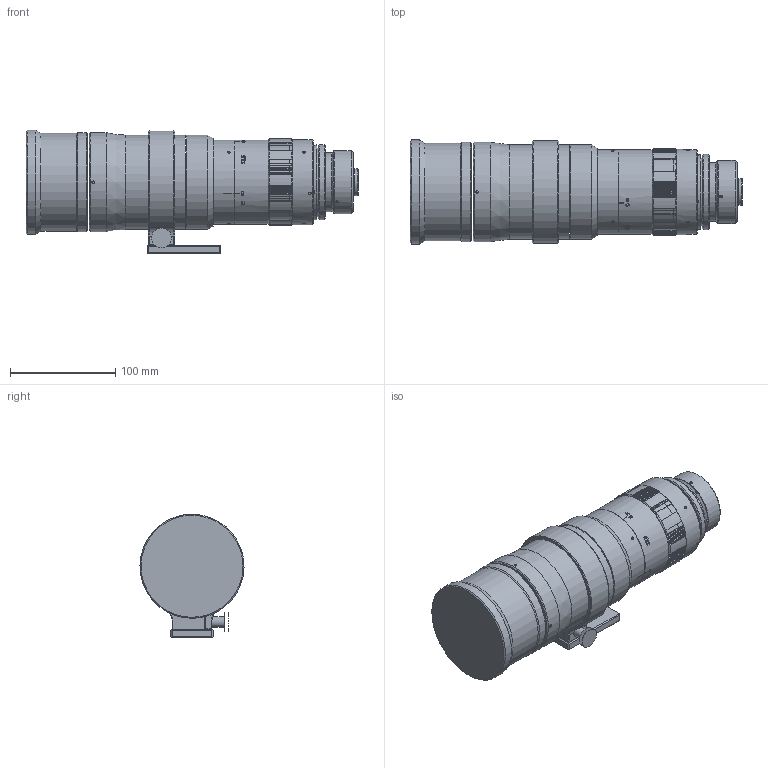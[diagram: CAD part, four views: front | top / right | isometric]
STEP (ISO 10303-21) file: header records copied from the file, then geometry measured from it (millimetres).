
FILE_DESCRIPTION((''),'2;1');
FILE_NAME('C:\Documents and Settings\tbosotti\Desktop\C0245_024.stp','2014-04-28T11:57:22',('tbosotti'),(''),'Autodesk Inventor 2010','Autodesk Inventor 2010','');
FILE_SCHEMA(('AUTOMOTIVE_DESIGN { 1 0 10303 214 1 1 1 1 }'));
Length unit declared in the file: millimetre
Products named in the file (2): C0245_024_000.iam (Livello di dettaglio sostituto1); C0245_024
Assembly tree (1 placements, depth 2):
  C0245_024_000.iam (Livello di dettaglio sostituto1)
    C0245_024
Bounding box: 315.81 x 98.99 x 117.49 mm (x, y, z)
Surface area: 205252.2 mm2 (no closed solid volume)
Topology: 0 solids, 30 shells, 277 faces, 1449 edges, 1164 vertices
Faces by surface type: plane 150, cone 48, cylinder 42, bspline 37
Full cylindrical faces by diameter (mm): 2.459 x1, 4.978 x1, 7.798 x1, 10 x1, 25.4 x1, 51 x1, 56 x1, 60 x1, 64.5 x1, 65.5 x1, 67.5 x1, 71.5 x2, 72.5 x2, 80.5 x2, 81 x1, 88 x1, 89.8 x2, 93 x1, 94.4 x2, 99 x1
Entity records: 19860 total; most frequent: CARTESIAN_POINT 10326, ORIENTED_EDGE 1712, DIRECTION 1590, EDGE_CURVE 1335, VERTEX_POINT 1128, AXIS2_PLACEMENT_3D 613, EDGE_LOOP 408, CIRCLE 370
